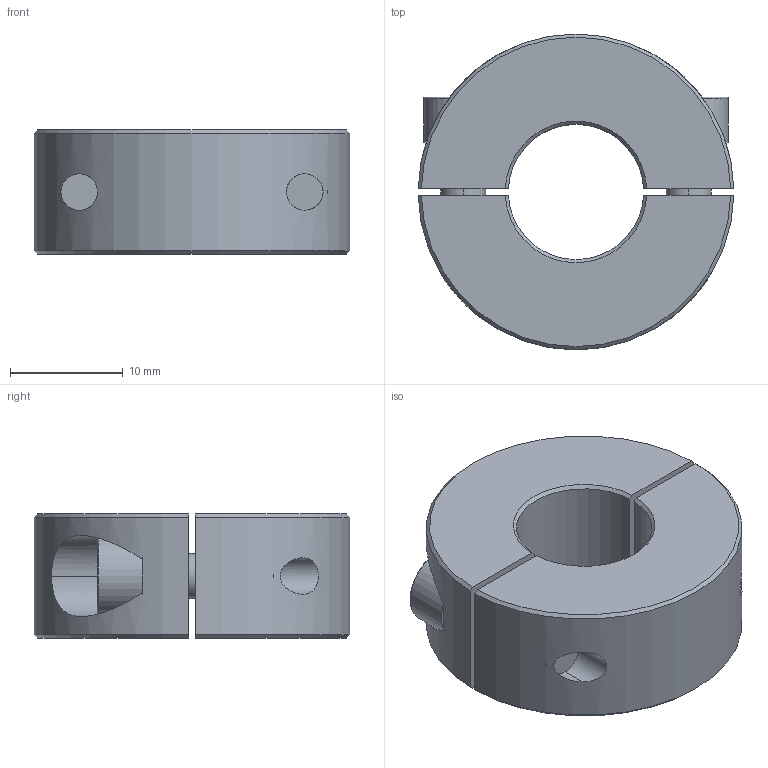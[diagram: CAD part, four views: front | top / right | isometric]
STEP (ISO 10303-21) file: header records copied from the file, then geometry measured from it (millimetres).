
FILE_DESCRIPTION (( 'STEP AP214' ), '1' );
FILE_NAME ('bague d''arret D12.step', '2017-04-05T07:36:00', ( '' ), ( '' ), 'SwSTEP 2.0', 'SolidWorks 2015', '' );
FILE_SCHEMA (( 'AUTOMOTIVE_DESIGN' ));
Length unit declared in the file: millimetre
Products named in the file (1): bague d''arret D12
Bounding box: 27.99 x 28 x 11 mm (x, y, z)
Volume: 5255.9 mm3; surface area: 3260 mm2
Topology: 1 solids, 1 shells, 81 faces, 183 edges, 118 vertices
Faces by surface type: plane 34, cylinder 29, cone 14, torus 4
Entity records: 3420 total; most frequent: CARTESIAN_POINT 654, DIRECTION 393, ORIENTED_EDGE 366, EDGE_CURVE 183, AXIS2_PLACEMENT_3D 155, VERTEX_POINT 118, EDGE_LOOP 97, UNCERTAINTY_MEASURE_WITH_UNIT 84
